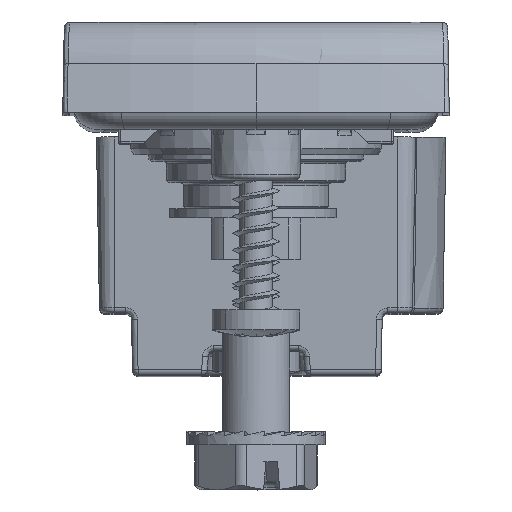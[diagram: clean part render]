
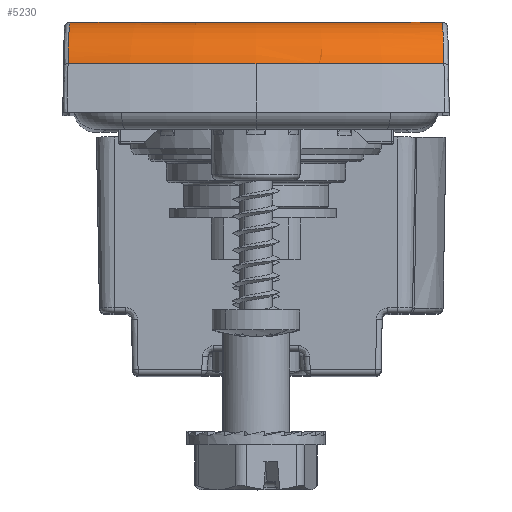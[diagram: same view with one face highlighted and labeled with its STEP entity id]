
A CAD part, top view. The second image highlights one B-rep face of the part: STEP entity #5230.
In plain terms, the highlighted toroidal (fillet/blend) face has major radius 74.02 mm and minor radius 5 mm.
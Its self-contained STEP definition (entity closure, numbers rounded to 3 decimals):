
#55 = AXIS2_PLACEMENT_3D ( 'NONE', #48812, #33449, #58145 ) ;
#2014 = CARTESIAN_POINT ( 'NONE',  ( 16.557, 7.612, 169.125 ) ) ;
#2427 = ORIENTED_EDGE ( 'NONE', *, *, #44459, .F. ) ;
#3115 = CIRCLE ( 'NONE', #55, 74.02 ) ;
#3249 = CARTESIAN_POINT ( 'NONE',  ( -16.588, 7.019, 170.186 ) ) ;
#3568 = CARTESIAN_POINT ( 'NONE',  ( -16.522, 7.972, 167.762 ) ) ;
#3886 = CARTESIAN_POINT ( 'NONE',  ( -16.576, 7.275, 169.801 ) ) ;
#4210 = CARTESIAN_POINT ( 'NONE',  ( -16.589, 6.992, 170.224 ) ) ;
#4534 = CARTESIAN_POINT ( 'NONE',  ( -16.658, 4.803, 171.93 ) ) ;
#5230 = ADVANCED_FACE ( 'NONE', ( #50739 ), #7404, .T. ) ;
#5267 = CARTESIAN_POINT ( 'NONE',  ( 16.658, 4.802, 171.93 ) ) ;
#5894 = CARTESIAN_POINT ( 'NONE',  ( 16.596, 6.822, 170.441 ) ) ;
#6021 = EDGE_CURVE ( 'NONE', #38025, #19406, #49692, .T. ) ;
#6528 = CARTESIAN_POINT ( 'NONE',  ( 16.59, 6.968, 170.256 ) ) ;
#6921 = CARTESIAN_POINT ( 'NONE',  ( 0., 4.294, 95. ) ) ;
#7404 = TOROIDAL_SURFACE ( 'NONE', #22949, 74.02, 5. ) ;
#9120 = CARTESIAN_POINT ( 'NONE',  ( 16.608, 6.511, 170.783 ) ) ;
#10175 = CARTESIAN_POINT ( 'NONE',  ( -16.509, 8., 167.155 ) ) ;
#10381 = CARTESIAN_POINT ( 'NONE',  ( 16.605, 6.61, 170.682 ) ) ;
#11010 = CARTESIAN_POINT ( 'NONE',  ( 16.566, 7.468, 169.447 ) ) ;
#11332 = CARTESIAN_POINT ( 'NONE',  ( 16.599, 6.753, 170.522 ) ) ;
#11712 = AXIS2_PLACEMENT_3D ( 'NONE', #6921, #32936, #51856 ) ;
#12852 = CARTESIAN_POINT ( 'NONE',  ( -16.605, 6.635, 170.701 ) ) ;
#13806 = CARTESIAN_POINT ( 'NONE',  ( -16.542, 7.802, 168.578 ) ) ;
#16143 = CARTESIAN_POINT ( 'NONE',  ( 16.548, 7.731, 168.805 ) ) ;
#18764 = CARTESIAN_POINT ( 'NONE',  ( 16.626, 5.986, 171.248 ) ) ;
#19272 = CARTESIAN_POINT ( 'NONE',  ( -16.555, 7.648, 169.058 ) ) ;
#19406 = VERTEX_POINT ( 'NONE', #51914 ) ;
#20652 = DIRECTION ( 'NONE',  ( -1., 0., 0. ) ) ;
#20979 = CARTESIAN_POINT ( 'NONE',  ( 16.591, 6.956, 170.271 ) ) ;
#21254 = ORIENTED_EDGE ( 'NONE', *, *, #6021, .F. ) ;
#22823 = CARTESIAN_POINT ( 'NONE',  ( -16.535, 7.874, 168.299 ) ) ;
#22949 = AXIS2_PLACEMENT_3D ( 'NONE', #41118, #26315, #49798 ) ;
#23042 = EDGE_CURVE ( 'NONE', #38025, #61326, #41814, .T. ) ;
#23452 = CARTESIAN_POINT ( 'NONE',  ( -16.62, 6.218, 171.092 ) ) ;
#25787 = CARTESIAN_POINT ( 'NONE',  ( 16.549, 7.717, 168.848 ) ) ;
#26085 = DIRECTION ( 'NONE',  ( 0., -1., 0. ) ) ;
#26315 = DIRECTION ( 'NONE',  ( 0., -1., 0. ) ) ;
#26413 = CARTESIAN_POINT ( 'NONE',  ( 16.576, 7.276, 169.811 ) ) ;
#27646 = CARTESIAN_POINT ( 'NONE',  ( -16.515, 8., 167.468 ) ) ;
#28607 = ORIENTED_EDGE ( 'NONE', *, *, #62039, .F. ) ;
#28620 = CARTESIAN_POINT ( 'NONE',  ( -16.545, 7.771, 168.68 ) ) ;
#28944 = CARTESIAN_POINT ( 'NONE',  ( -16.509, 8., 167.155 ) ) ;
#30213 = ORIENTED_EDGE ( 'NONE', *, *, #55617, .T. ) ;
#30312 = CARTESIAN_POINT ( 'NONE',  ( 16.583, 7.132, 170.036 ) ) ;
#30937 = EDGE_LOOP ( 'NONE', ( #30213, #2427, #21254, #38738, #28607 ) ) ;
#32936 = DIRECTION ( 'NONE',  ( 0., -1., 0. ) ) ;
#33037 = CARTESIAN_POINT ( 'NONE',  ( 16.509, 8., 167.155 ) ) ;
#33134 = CARTESIAN_POINT ( 'NONE',  ( -16.581, 7.168, 169.97 ) ) ;
#33449 = DIRECTION ( 'NONE',  ( 0., 1., 0. ) ) ;
#33461 = CARTESIAN_POINT ( 'NONE',  ( -16.589, 7., 170.212 ) ) ;
#34828 = CARTESIAN_POINT ( 'NONE',  ( 16.509, 8., 167.155 ) ) ;
#35465 = CARTESIAN_POINT ( 'NONE',  ( 16.551, 7.696, 168.908 ) ) ;
#37943 = CARTESIAN_POINT ( 'NONE',  ( -16.547, 7.749, 168.752 ) ) ;
#38025 = VERTEX_POINT ( 'NONE', #51098 ) ;
#38284 = CARTESIAN_POINT ( 'NONE',  ( -16.54, 7.827, 168.486 ) ) ;
#38404 = CARTESIAN_POINT ( 'NONE',  ( 16.619, 6.205, 171.074 ) ) ;
#38427 = CIRCLE ( 'NONE', #54766, 78.849 ) ;
#38738 = ORIENTED_EDGE ( 'NONE', *, *, #23042, .T. ) ;
#39963 = VERTEX_POINT ( 'NONE', #10175 ) ;
#40576 = CARTESIAN_POINT ( 'NONE',  ( 16.554, 7.652, 169.026 ) ) ;
#41118 = CARTESIAN_POINT ( 'NONE',  ( 0., 3., 95. ) ) ;
#41814 = B_SPLINE_CURVE_WITH_KNOTS ( 'NONE', 3,
 ( #49258, #5267, #62776, #18764, #38404, #9120, #10381, #11332, #5894, #60135, #49568, #20979, #6528, #30312, #26413, #11010, #55307, #2014, #40576, #35465, #25787, #49885, #16143, #59520, #54989, #59831, #34828 ),
 .UNSPECIFIED., .F., .F.,
 ( 4, 2, 2, 2, 1, 1, 2, 2, 2, 2, 1, 1, 1, 2, 2, 4 ),
 ( 0., 0.25, 0.375, 0.438, 0.469, 0.484, 0.492, 0.5, 0.625, 0.688, 0.719, 0.734, 0.742, 0.746, 0.75, 1. ),
 .UNSPECIFIED. ) ;
#42435 = CARTESIAN_POINT ( 'NONE',  ( -16.547, 7.742, 168.772 ) ) ;
#44459 = EDGE_CURVE ( 'NONE', #19406, #44697, #38427, .T. ) ;
#44697 = VERTEX_POINT ( 'NONE', #48554 ) ;
#47251 = CARTESIAN_POINT ( 'NONE',  ( -16.547, 7.744, 168.766 ) ) ;
#47565 = CARTESIAN_POINT ( 'NONE',  ( -16.573, 7.343, 169.684 ) ) ;
#48196 = CARTESIAN_POINT ( 'NONE',  ( -16.562, 7.535, 169.319 ) ) ;
#48554 = CARTESIAN_POINT ( 'NONE',  ( -16.669, 4.294, 172.067 ) ) ;
#48812 = CARTESIAN_POINT ( 'NONE',  ( 0., 8., 95. ) ) ;
#49258 = CARTESIAN_POINT ( 'NONE',  ( 16.669, 4.294, 172.067 ) ) ;
#49568 = CARTESIAN_POINT ( 'NONE',  ( 16.592, 6.934, 170.3 ) ) ;
#49692 = CIRCLE ( 'NONE', #11712, 78.849 ) ;
#49798 = DIRECTION ( 'NONE',  ( 1., 0., 0. ) ) ;
#49885 = CARTESIAN_POINT ( 'NONE',  ( 16.549, 7.725, 168.822 ) ) ;
#50739 = FACE_OUTER_BOUND ( 'NONE', #30937, .T. ) ;
#51098 = CARTESIAN_POINT ( 'NONE',  ( 16.669, 4.294, 172.067 ) ) ;
#51856 = DIRECTION ( 'NONE',  ( -1., 0., 0. ) ) ;
#51914 = CARTESIAN_POINT ( 'NONE',  ( 0., 4.294, 173.849 ) ) ;
#52360 = CARTESIAN_POINT ( 'NONE',  ( -16.546, 7.755, 168.731 ) ) ;
#52678 = CARTESIAN_POINT ( 'NONE',  ( -16.587, 7.048, 170.146 ) ) ;
#52991 = CARTESIAN_POINT ( 'NONE',  ( -16.646, 5.302, 171.707 ) ) ;
#53238 = B_SPLINE_CURVE_WITH_KNOTS ( 'NONE', 3,
 ( #28944, #27646, #3568, #58155, #22823, #38284, #13806, #28620, #52360, #37943, #47251, #42435, #19272, #48196, #47565, #3886, #33134, #56880, #52678, #3249, #33461, #4210, #12852, #23452, #52991, #4534, #62656 ),
 .UNSPECIFIED., .F., .F.,
 ( 4, 2, 2, 1, 1, 1, 2, 2, 2, 2, 1, 1, 2, 2, 2, 4 ),
 ( 0., 0.125, 0.187, 0.219, 0.234, 0.242, 0.246, 0.25, 0.375, 0.437, 0.469, 0.484, 0.492, 0.5, 0.75, 1. ),
 .UNSPECIFIED. ) ;
#54766 = AXIS2_PLACEMENT_3D ( 'NONE', #55641, #26085, #20652 ) ;
#54989 = CARTESIAN_POINT ( 'NONE',  ( 16.536, 7.887, 168.333 ) ) ;
#55307 = CARTESIAN_POINT ( 'NONE',  ( 16.562, 7.529, 169.321 ) ) ;
#55617 = EDGE_CURVE ( 'NONE', #39963, #44697, #53238, .T. ) ;
#55641 = CARTESIAN_POINT ( 'NONE',  ( 0., 4.294, 95. ) ) ;
#56880 = CARTESIAN_POINT ( 'NONE',  ( -16.584, 7.114, 170.053 ) ) ;
#58145 = DIRECTION ( 'NONE',  ( 1., 0., 0. ) ) ;
#58155 = CARTESIAN_POINT ( 'NONE',  ( -16.532, 7.902, 168.169 ) ) ;
#59520 = CARTESIAN_POINT ( 'NONE',  ( 16.548, 7.735, 168.795 ) ) ;
#59831 = CARTESIAN_POINT ( 'NONE',  ( 16.522, 8., 167.784 ) ) ;
#60135 = CARTESIAN_POINT ( 'NONE',  ( 16.593, 6.901, 170.343 ) ) ;
#61326 = VERTEX_POINT ( 'NONE', #33037 ) ;
#62039 = EDGE_CURVE ( 'NONE', #39963, #61326, #3115, .T. ) ;
#62656 = CARTESIAN_POINT ( 'NONE',  ( -16.669, 4.294, 172.067 ) ) ;
#62776 = CARTESIAN_POINT ( 'NONE',  ( 16.646, 5.3, 171.708 ) ) ;
